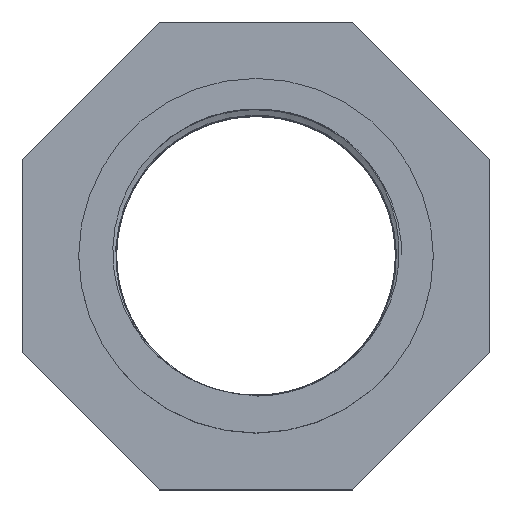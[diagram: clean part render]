
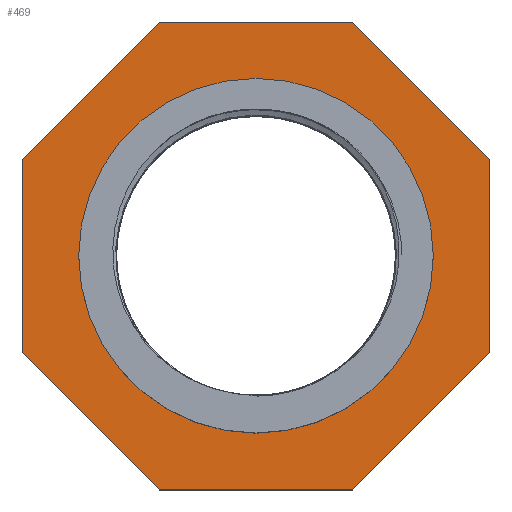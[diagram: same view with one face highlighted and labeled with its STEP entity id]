
A CAD part, top view. The second image highlights one B-rep face of the part: STEP entity #469.
In plain terms, the highlighted planar face has unit normal (0, 0, 1).
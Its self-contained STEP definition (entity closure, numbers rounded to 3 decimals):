
#16=FACE_BOUND('',#107,.T.);
#38=PLANE('',#497);
#49=CIRCLE('',#498,36.);
#76=FACE_OUTER_BOUND('',#106,.T.);
#106=EDGE_LOOP('',(#411,#412,#413,#414,#415,#416,#417,#418));
#107=EDGE_LOOP('',(#419));
#126=LINE('',#11210,#156);
#130=LINE('',#11218,#160);
#133=LINE('',#11224,#163);
#136=LINE('',#11230,#166);
#139=LINE('',#11236,#169);
#142=LINE('',#11242,#172);
#145=LINE('',#11248,#175);
#148=LINE('',#11253,#178);
#156=VECTOR('',#539,39.35);
#160=VECTOR('',#545,39.35);
#163=VECTOR('',#550,39.35);
#166=VECTOR('',#555,39.35);
#169=VECTOR('',#560,39.35);
#172=VECTOR('',#565,39.35);
#175=VECTOR('',#570,39.35);
#178=VECTOR('',#575,39.35);
#224=VERTEX_POINT('',#11208);
#225=VERTEX_POINT('',#11209);
#228=VERTEX_POINT('',#11217);
#230=VERTEX_POINT('',#11223);
#232=VERTEX_POINT('',#11229);
#234=VERTEX_POINT('',#11235);
#236=VERTEX_POINT('',#11241);
#238=VERTEX_POINT('',#11247);
#240=VERTEX_POINT('',#11257);
#280=EDGE_CURVE('',#224,#225,#126,.T.);
#284=EDGE_CURVE('',#228,#224,#130,.T.);
#287=EDGE_CURVE('',#230,#228,#133,.T.);
#290=EDGE_CURVE('',#232,#230,#136,.T.);
#293=EDGE_CURVE('',#234,#232,#139,.T.);
#296=EDGE_CURVE('',#236,#234,#142,.T.);
#299=EDGE_CURVE('',#238,#236,#145,.T.);
#302=EDGE_CURVE('',#225,#238,#148,.T.);
#304=EDGE_CURVE('',#240,#240,#49,.T.);
#411=ORIENTED_EDGE('',*,*,#302,.F.);
#412=ORIENTED_EDGE('',*,*,#280,.F.);
#413=ORIENTED_EDGE('',*,*,#284,.F.);
#414=ORIENTED_EDGE('',*,*,#287,.F.);
#415=ORIENTED_EDGE('',*,*,#290,.F.);
#416=ORIENTED_EDGE('',*,*,#293,.F.);
#417=ORIENTED_EDGE('',*,*,#296,.F.);
#418=ORIENTED_EDGE('',*,*,#299,.F.);
#419=ORIENTED_EDGE('',*,*,#304,.F.);
#469=ADVANCED_FACE('',(#76,#16),#38,.T.);
#497=AXIS2_PLACEMENT_3D('',#11256,#579,#580);
#498=AXIS2_PLACEMENT_3D('',#11258,#581,#582);
#539=DIRECTION('',(1.,0.,0.));
#545=DIRECTION('',(0.707,0.707,0.));
#550=DIRECTION('',(0.,1.,0.));
#555=DIRECTION('',(-0.707,0.707,0.));
#560=DIRECTION('',(-1.,0.,0.));
#565=DIRECTION('',(-0.707,-0.707,0.));
#570=DIRECTION('',(0.,-1.,0.));
#575=DIRECTION('',(0.707,-0.707,0.));
#579=DIRECTION('center_axis',(0.,0.,1.));
#580=DIRECTION('ref_axis',(1.,0.,0.));
#581=DIRECTION('center_axis',(0.,0.,1.));
#582=DIRECTION('ref_axis',(1.,0.,0.));
#11208=CARTESIAN_POINT('',(-19.675,47.5,51.));
#11209=CARTESIAN_POINT('',(19.675,47.5,51.));
#11210=CARTESIAN_POINT('',(-19.675,47.5,51.));
#11217=CARTESIAN_POINT('',(-47.5,19.675,51.));
#11218=CARTESIAN_POINT('',(-47.5,19.675,51.));
#11223=CARTESIAN_POINT('',(-47.5,-19.675,51.));
#11224=CARTESIAN_POINT('',(-47.5,-19.675,51.));
#11229=CARTESIAN_POINT('',(-19.675,-47.5,51.));
#11230=CARTESIAN_POINT('',(-19.675,-47.5,51.));
#11235=CARTESIAN_POINT('',(19.675,-47.5,51.));
#11236=CARTESIAN_POINT('',(19.675,-47.5,51.));
#11241=CARTESIAN_POINT('',(47.5,-19.675,51.));
#11242=CARTESIAN_POINT('',(47.5,-19.675,51.));
#11247=CARTESIAN_POINT('',(47.5,19.675,51.));
#11248=CARTESIAN_POINT('',(47.5,19.675,51.));
#11253=CARTESIAN_POINT('',(19.675,47.5,51.));
#11256=CARTESIAN_POINT('Origin',(36.,0.,51.));
#11257=CARTESIAN_POINT('',(36.,0.,51.));
#11258=CARTESIAN_POINT('Origin',(0.,0.,51.));
